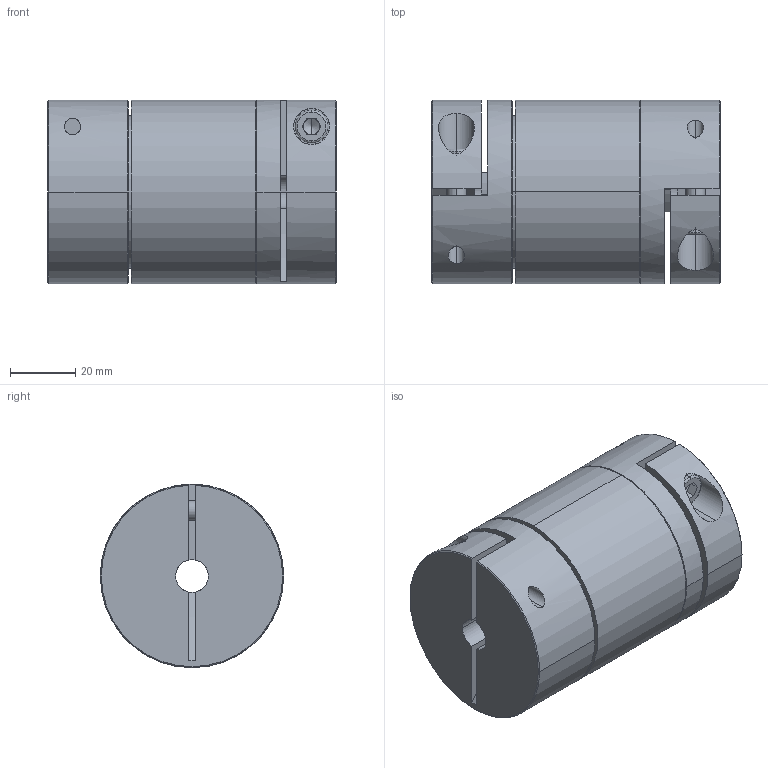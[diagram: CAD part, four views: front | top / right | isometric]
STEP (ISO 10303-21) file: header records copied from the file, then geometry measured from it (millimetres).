
FILE_DESCRIPTION (( 'STEP AP203' ), '1' );
FILE_NAME ('PMK-30.STEP', '2022-08-23T12:16:26', ( '' ), ( '' ), 'SwSTEP 2.0', 'SolidWorks 2019', '' );
FILE_SCHEMA (( 'CONFIG_CONTROL_DESIGN' ));
Length unit declared in the file: millimetre
Products named in the file (5): PMK-IRO 30_011.00000447.300_Kunde; socket head cap screw 4762_din_EN ISO 4762 M6 x 20 - 20N; PMK-ARO 30_011.00000448.300_Kunde; BNK 30-2G_011.00000288.100_Kunde; PMK-30
Assembly tree (6 placements, depth 2):
  PMK-30
    BNK 30-2G_011.00000288.100_Kunde  x2
    PMK-IRO 30_011.00000447.300_Kunde
    PMK-ARO 30_011.00000448.300_Kunde
    socket head cap screw 4762_din_EN ISO 4762 M6 x 20 - 20N  x2
Bounding box: 88 x 56 x 56 mm (x, y, z)
Volume: 172117.2 mm3; surface area: 57438.4 mm2
Topology: 6 solids, 6 shells, 146 faces, 336 edges, 210 vertices
Faces by surface type: cylinder 60, plane 60, cone 18, torus 8
Entity records: 3290 total; most frequent: CARTESIAN_POINT 580, DIRECTION 503, ORIENTED_EDGE 404, AXIS2_PLACEMENT_3D 208, EDGE_CURVE 202, VERTEX_POINT 129, EDGE_LOOP 111, CIRCLE 108
